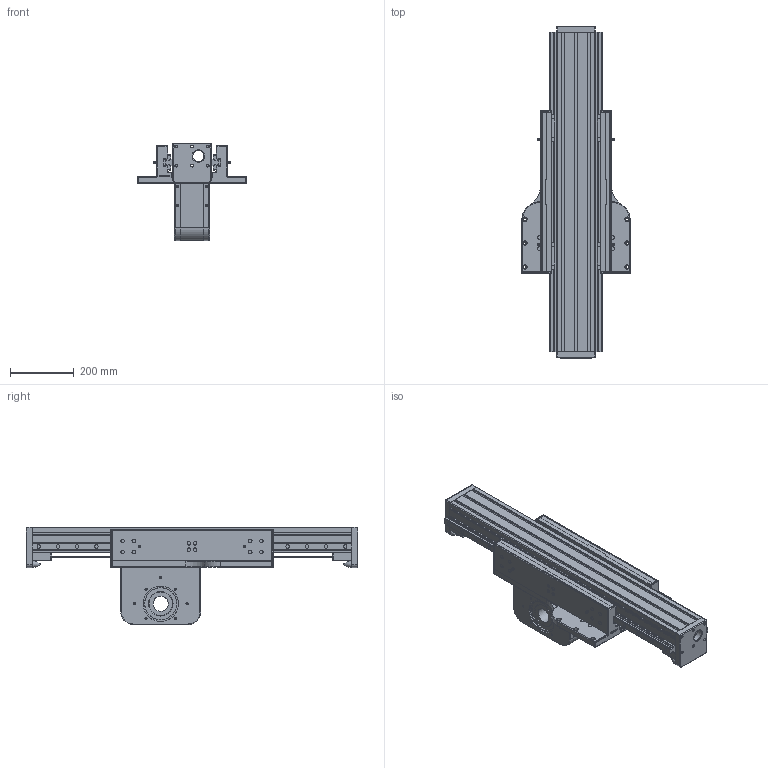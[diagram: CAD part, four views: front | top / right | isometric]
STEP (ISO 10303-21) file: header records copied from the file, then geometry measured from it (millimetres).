
FILE_DESCRIPTION(/* description */ ('00'),/* implementation_level */ '2;1');
FILE_NAME(/* name */ 'D:\EVOLVE\STUDIO_EVOLVE\LIBRERIA_MODELLI\UNITÀ_BELT_SERIE_O\UBO_SIMPLIFIED\UBO_120_L_TS47_X0450_SIMPLIFIED.stp',/* time_stamp */ '2022-04-13T17:06:46+02:00',/* author */ ('Daniel'),/* organization */ (''),/* preprocessor_version */ 'ST-DEVELOPER v18.1',/* originating_system */ 'Autodesk Inventor 2021',/* authorisation */ '');
FILE_SCHEMA (('AUTOMOTIVE_DESIGN { 1 0 10303 214 3 1 1 }'));
Length unit declared in the file: millimetre
Products named in the file (3): UBO_120_L_TS47_X0450_SIMPLIFIED; AS_UBO_120_L_L1000_SIMPLIFIED; CR_UBO_120_L_TS47_SIMPLIFIED
Assembly tree (2 placements, depth 2):
  UBO_120_L_TS47_X0450_SIMPLIFIED
    AS_UBO_120_L_L1000_SIMPLIFIED
    CR_UBO_120_L_TS47_SIMPLIFIED
Bounding box: 340 x 1040 x 305 mm (x, y, z)
Volume: 19056237.4 mm3; surface area: 2689677.2 mm2
Topology: 127 solids, 127 shells, 1960 faces, 4593 edges, 2986 vertices
Faces by surface type: plane 1145, cylinder 627, cone 98, torus 44, sphere 38, bspline 8
Full cylindrical faces by diameter (mm): 4.917 x8, 6 x12, 6.647 x22, 8 x4, 8.376 x12, 8.5 x12, 11 x60, 11.2 x76, 13.5 x12, 15.2 x20, 18.4 x4, 35 x3, 47 x1, 75 x2, 100 x2, 110 x2
Entity records: 57084 total; most frequent: CARTESIAN_POINT 9978, DIRECTION 9825, ORIENTED_EDGE 9118, EDGE_CURVE 4559, AXIS2_PLACEMENT_3D 3413, LINE 2999, VECTOR 2999, VERTEX_POINT 2986
